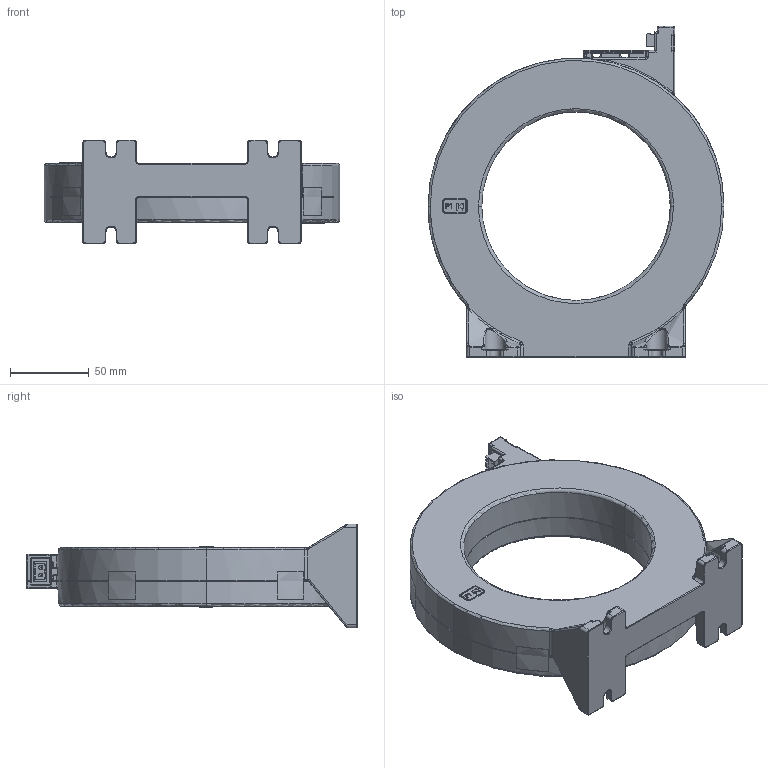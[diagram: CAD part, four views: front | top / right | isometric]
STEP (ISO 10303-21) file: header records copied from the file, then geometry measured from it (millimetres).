
FILE_DESCRIPTION (( 'STEP AP214' ), '1' );
FILE_NAME ('CTAC120_08052019_1520.STEP', '2019-05-08T13:23:26', ( 'Administrator' ), ( '' ), 'SwSTEP 2.0', 'SolidWorks 2019', '' );
FILE_SCHEMA (( 'AUTOMOTIVE_DESIGN' ));
Length unit declared in the file: millimetre
Products named in the file (1): CTAC120_08052019_1520
Bounding box: 188.4 x 210.95 x 66 mm (x, y, z)
Surface area: 86144.8 mm2 (no closed solid volume)
Topology: 0 solids, 2 shells, 1086 faces, 2634 edges, 1507 vertices
Faces by surface type: cylinder 361, plane 298, torus 200, bspline 188, cone 27, sphere 12
Entity records: 54600 total; most frequent: CARTESIAN_POINT 24511, ORIENTED_EDGE 5142, EDGE_CURVE 2571, B_SPLINE_CURVE_WITH_KNOTS 2208, DIRECTION 2100, VERTEX_POINT 1507, EDGE_LOOP 1110, FACE_OUTER_BOUND 1086
